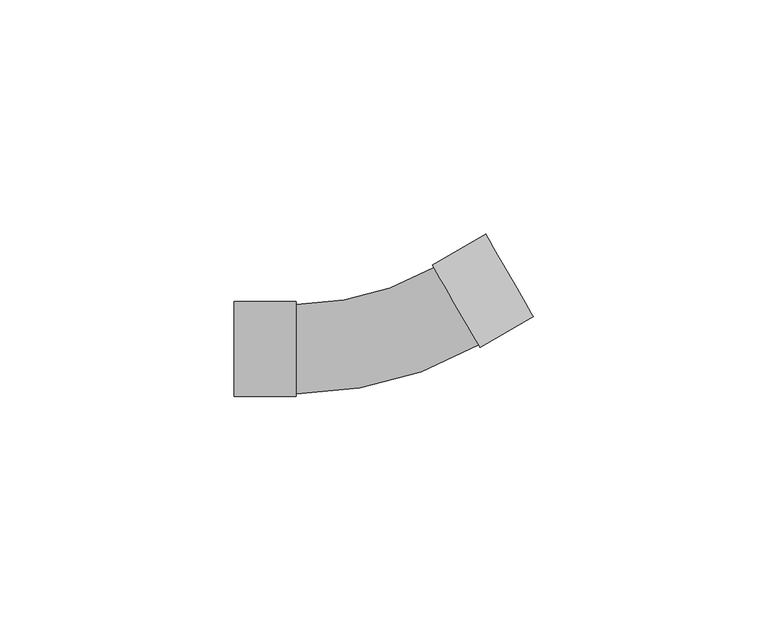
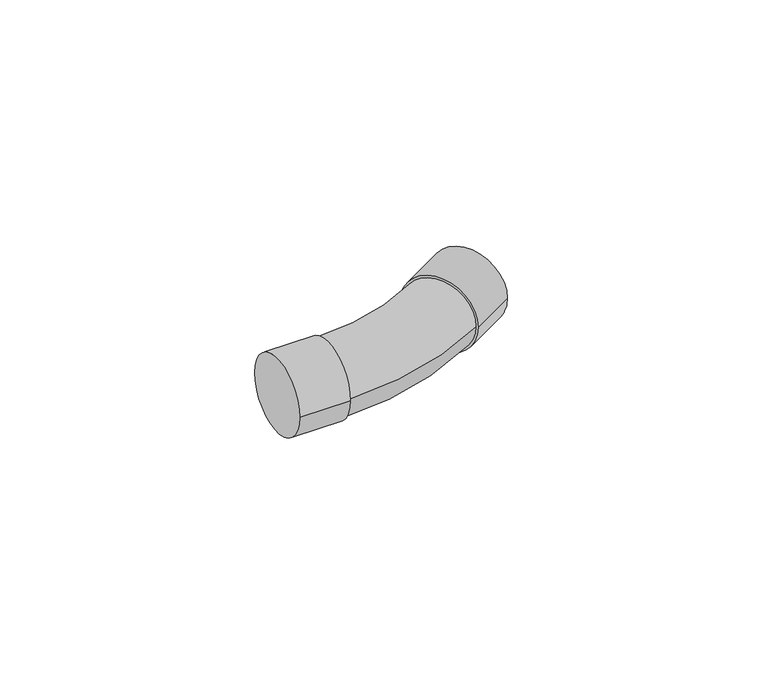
"""IFC4 building model written with IfcOpenShell, lengths in millimetres: pipe fitting geometry, Cotovelo - Soldado - CU : Padrão."""

import ifcopenshell
import ifcopenshell.guid

model = None  # the IFC model being written
_history = None  # IfcOwnerHistory: only IFC2X3 demands one
_inside = {}  # id of a spatial element -> (the spatial element, [elements in it])
_under = {}  # id of a project, library or spatial element -> (it, [spatial elements below it])
_declared = {}  # id of a project -> (the project, [libraries it declares])
_typed = {}  # id of a type object -> (the type object, [elements of that type])
_made_of = {}  # id of a material, layer set ... -> (it, [elements and type objects made of it])


def new_model(schema):
    """Start an empty IFC model of exactly this schema.

    Asked for "IFC4X3", IfcOpenShell would pick the latest addendum, in which some entities
    have other attributes; the version numbers below select the first issue.
    IFC2X3 requires an IfcOwnerHistory on every rooted entity: one is made here for all.
    """
    global model, _history
    if schema == "IFC4X3":
        model = ifcopenshell.file(schema_version=(4, 3, 0, 0))
    else:
        model = ifcopenshell.file(schema=schema)
    _inside.clear()
    _under.clear()
    _declared.clear()
    _typed.clear()
    _made_of.clear()
    _history = None
    if model.schema == "IFC2X3":
        org = make("IfcOrganization", Name="unknown")
        user = make(
            "IfcPersonAndOrganization",
            ThePerson=make("IfcPerson", FamilyName="unknown"),
            TheOrganization=org,
        )
        app = make(
            "IfcApplication",
            ApplicationDeveloper=org,
            Version="unknown",
            ApplicationFullName="unknown",
            ApplicationIdentifier="unknown",
        )
        _history = make(
            "IfcOwnerHistory",
            OwningUser=user,
            OwningApplication=app,
            ChangeAction="ADDED",
            CreationDate=0,
        )
    return model


def make(cls, **values):
    """One entity of the class cls with the attributes given. An attribute that is None is left unset."""
    return model.create_entity(
        cls, **{name: value for name, value in values.items() if value is not None}
    )


def rooted(cls, **values):
    """An entity with a GlobalId (a new one), such as an element, a storey or a relation."""
    return make(cls, GlobalId=ifcopenshell.guid.new(), OwnerHistory=_history, **values)


def si_unit(unit_type, name, prefix=None):
    """IfcSIUnit, for example si_unit("LENGTHUNIT", "METRE", prefix="MILLI")."""
    return make("IfcSIUnit", UnitType=unit_type, Prefix=prefix, Name=name)


def assignment(units):
    """IfcUnitAssignment: the units of a project."""
    return None if units is None else make("IfcUnitAssignment", Units=units)


def point(xyz):
    """IfcCartesianPoint."""
    return None if xyz is None else make("IfcCartesianPoint", Coordinates=xyz)


def direction(xyz):
    """IfcDirection."""
    return None if xyz is None else make("IfcDirection", DirectionRatios=xyz)


def frame(location, z_axis=None, x_axis=None):
    """IfcAxis2Placement3D, a coordinate frame: its origin and axes. An axis left out is left unset."""
    return make(
        "IfcAxis2Placement3D",
        Location=point(location),
        Axis=direction(z_axis),
        RefDirection=direction(x_axis),
    )


def origin():
    """The frame at (0, 0, 0) with its axes left unset."""
    return frame((0.0, 0.0, 0.0))


def place(relative_to, where):
    """IfcLocalPlacement: puts the frame where relative to a parent placement (None: the world)."""
    return make(
        "IfcLocalPlacement", PlacementRelTo=relative_to, RelativePlacement=where
    )


def context(
    kind, dimensions, precision=None, world=None, true_north=None, identifier=None
):
    """IfcGeometricRepresentationContext, for example the 3D "Model" context."""
    return make(
        "IfcGeometricRepresentationContext",
        ContextIdentifier=identifier,
        ContextType=kind,
        CoordinateSpaceDimension=dimensions,
        Precision=precision,
        WorldCoordinateSystem=world,
        TrueNorth=true_north,
    )


def project(units=None, contexts=None):
    """IfcProject with its units and contexts."""
    return rooted(
        "IfcProject",
        Name="project",
        RepresentationContexts=contexts,
        UnitsInContext=assignment(units),
    )


def spatial(cls, under=None, at=None, **own):
    """A site, building, storey or space (cls), placed at a placement, below another one or the project."""
    s = rooted(cls, ObjectPlacement=at, **own)
    if under is not None:
        _under.setdefault(under.id(), (under, []))[1].append(s)
    return s


def circle_curve(where, radius):
    """IfcCircle in the frame where."""
    return make("IfcCircle", Position=where, Radius=radius)


def ellipse_curve(where, semi_axis1, semi_axis2):
    """IfcEllipse in the frame where."""
    return make(
        "IfcEllipse", Position=where, SemiAxis1=semi_axis1, SemiAxis2=semi_axis2
    )


def trimmed(basis, trim1, trim2, sense, master):
    """IfcTrimmedCurve: the piece of a basis curve between two trims."""
    return make(
        "IfcTrimmedCurve",
        BasisCurve=basis,
        Trim1=trim1,
        Trim2=trim2,
        SenseAgreement=sense,
        MasterRepresentation=master,
    )


def shape(context_of_items, identifier, shape_type, items):
    """IfcShapeRepresentation: the items that make up one representation, for example the "Body"."""
    return make(
        "IfcShapeRepresentation",
        ContextOfItems=context_of_items,
        RepresentationIdentifier=identifier,
        RepresentationType=shape_type,
        Items=items,
    )


def source(mapping_origin, context_of_items, identifier, shape_type, items):
    """IfcRepresentationMap: a shape defined once, which mapped items show again and again."""
    return make(
        "IfcRepresentationMap",
        MappingOrigin=mapping_origin,
        MappedRepresentation=shape(context_of_items, identifier, shape_type, items),
    )


def transform(
    local_origin,
    x_axis=None,
    y_axis=None,
    z_axis=None,
    scale=None,
    scale2=None,
    scale3=None,
    uniform=True,
):
    """IfcCartesianTransformationOperator3D, or its non-uniform kind. x_axis, y_axis, z_axis: its Axis1, 2, 3."""
    if uniform:
        return make(
            "IfcCartesianTransformationOperator3D",
            Axis1=direction(x_axis),
            Axis2=direction(y_axis),
            LocalOrigin=point(local_origin),
            Scale=scale,
            Axis3=direction(z_axis),
        )
    return make(
        "IfcCartesianTransformationOperator3DnonUniform",
        Axis1=direction(x_axis),
        Axis2=direction(y_axis),
        LocalOrigin=point(local_origin),
        Scale=scale,
        Axis3=direction(z_axis),
        Scale2=scale2,
        Scale3=scale3,
    )


def mapped(mapping_source, mapping_target):
    """IfcMappedItem: shows the shape of a source again, moved by a transform."""
    return make(
        "IfcMappedItem", MappingSource=mapping_source, MappingTarget=mapping_target
    )


def made_of(thing, what):
    """Note that an element or type object is made of a material, layer set ...; save() writes the relation."""
    if what is not None:
        _made_of.setdefault(what.id(), (what, []))[1].append(thing)
    return thing


def element(
    cls,
    number,
    at=None,
    inside=None,
    cuts=None,
    type_object=None,
    material=None,
    context=None,
    identifier="Body",
    shape_type=None,
    held_by="IfcProductDefinitionShape",
    body=None,
    shapes=None,
    **own,
):
    """One element of the class cls, such as IfcWall. Its Tag is "e" and its number.

    at: its placement. inside: the storey or other place that contains it. cuts: it is an
    opening in that element (IfcRelVoidsElement). A single representation is given by context,
    identifier, shape_type and body (its items); several are given by shapes. held_by: the class
    of the entity that holds the representations. save() writes the other relations.
    """
    e = rooted(cls, Tag="e%d" % number, ObjectPlacement=at, **own)
    if body is not None:
        shapes = [shape(context, identifier, shape_type, body)]
    if shapes is not None:
        e.Representation = make(held_by, Representations=shapes)
    if inside is not None:
        _inside.setdefault(inside.id(), (inside, []))[1].append(e)
    if cuts is not None:
        rooted(
            "IfcRelVoidsElement", RelatingBuildingElement=cuts, RelatedOpeningElement=e
        )
    if type_object is not None:
        _typed.setdefault(type_object.id(), (type_object, []))[1].append(e)
    return made_of(e, material)


def aggregate(whole, parts):
    """IfcRelAggregates: a whole, such as a stair, and the parts it consists of."""
    return rooted("IfcRelAggregates", RelatingObject=whole, RelatedObjects=parts)


def save(model, path):
    """Write the relations noted so far, then the file.

    IfcRelAggregates (storeys below a building ...), IfcRelContainedInSpatialStructure (elements
    in a storey), IfcRelDefinesByType, IfcRelAssociatesMaterial and IfcRelDeclares: one each for
    every whole, place, type object, material and project.
    """
    for whole, parts in _under.values():
        aggregate(whole, parts)
    for where, things in _inside.values():
        rooted(
            "IfcRelContainedInSpatialStructure",
            RelatedElements=things,
            RelatingStructure=where,
        )
    for kind, things in _typed.values():
        rooted("IfcRelDefinesByType", RelatedObjects=things, RelatingType=kind)
    for what, things in _made_of.values():
        rooted("IfcRelAssociatesMaterial", RelatedObjects=things, RelatingMaterial=what)
    for by, libraries in _declared.values():
        rooted("IfcRelDeclares", RelatingContext=by, RelatedDefinitions=libraries)
    model.write(path)


def plane_surface(at):
    """IfcPlane: the flat surface through the origin of the frame at, square to its z axis."""
    return make("IfcPlane", Position=at)


def cylinder_surface(at, radius):
    """IfcCylindricalSurface: all points at the distance radius from the z axis of the frame at."""
    return make("IfcCylindricalSurface", Position=at, Radius=radius)


def revolved_surface(curve, axis_point, axis_direction):
    """IfcSurfaceOfRevolution: the curve turned about the line through axis_point along axis_direction."""
    return make(
        "IfcSurfaceOfRevolution",
        SweptCurve=make("IfcArbitraryOpenProfileDef", ProfileType="CURVE", Curve=curve),
        AxisPosition=make("IfcAxis1Placement", Location=point(axis_point), Axis=direction(axis_direction)),
    )


def advanced_brep(points, edges, surfaces, faces):
    """IfcAdvancedBrep: a solid bounded by faces that lie on surfaces and meet in shared edges.

    An edge is (start, end): straight between two places in points (the first is 0);
    or (start, end, curve); or (start, end, curve, False) where it runs against its curve.
    A face is (place in surfaces, loops), or (place, loops, False) where it looks against
    its surface's normal. A loop lists edges by number (the first is 1), with a minus sign
    where the edge is run from its end to its start. The first loop is the outer one.
    """
    corners = [point(p) for p in points]
    vertices = [make("IfcVertexPoint", VertexGeometry=c) for c in corners]
    made = []
    for start, end, *more in edges:
        made.append(
            make(
                "IfcEdgeCurve",
                EdgeStart=vertices[start],
                EdgeEnd=vertices[end],
                EdgeGeometry=more[0] if more else make("IfcPolyline", Points=[corners[start], corners[end]]),
                SameSense=more[1] if len(more) > 1 else True,
            )
        )
    hull = []
    for where, loops, *sense in faces:
        bounds = []
        for j, loop in enumerate(loops):
            ring = [make("IfcOrientedEdge", EdgeElement=made[abs(k) - 1], Orientation=k > 0) for k in loop]
            bounds.append(
                make(
                    "IfcFaceOuterBound" if j == 0 else "IfcFaceBound",
                    Bound=make("IfcEdgeLoop", EdgeList=ring),
                    Orientation=True,
                )
            )
        hull.append(make("IfcAdvancedFace", Bounds=bounds, FaceSurface=surfaces[where], SameSense=sense[0] if sense else True))
    return make("IfcAdvancedBrep", Outer=make("IfcClosedShell", CfsFaces=hull))


def pipe_fitting_d07a409f(model_context):
    return source(origin(), model_context, "Body", "AdvancedBrep", [
        advanced_brep(
        [(11.090528, 17.401642, 0.0), (-18.3055, 9.525, 0.0), (-18.3055, -9.525, 0.0), (20.615528, 0.903858, 0.0), (-31.459, -10.1155, 0.0), (-31.459, 10.1155, 0.0), (-18.3055, -10.1155, 0.0), (-18.3055, 10.1155, 0.0), (22.1865432, 24.48978, 0.0), (32.3020432, 6.96922, 0.0), (10.795278, 17.91303, 0.0), (20.910778, 0.39247, 0.0)],
        [
            (0, 1, circle_curve(frame((-18.3055, 68.3170561, 0.0), z_axis=(0.0, 0.0, -1.0), x_axis=(0.0, -1.0, 0.0)), 58.7920561)),
            (1, 2, circle_curve(frame((-18.3055, 0.0, 0.0), z_axis=(1.0, 0.0, 0.0), x_axis=(0.0, 1.0, 0.0)), 9.525)),
            (2, 3, circle_curve(frame((-18.3055, 68.3170561, 0.0), z_axis=(0.0, 0.0, 1.0), x_axis=(0.0, -1.0, 0.0)), 77.8420561)),
            (3, 0, circle_curve(frame((15.853028, 9.15275, 0.0), z_axis=(-0.8660254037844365, -0.5000000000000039, 0.0), x_axis=(-0.5000000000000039, 0.8660254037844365, 0.0)), 9.525)),
            (0, 3, circle_curve(frame((15.853028, 9.15275, 0.0), z_axis=(-0.8660254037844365, -0.5000000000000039, 0.0), x_axis=(-0.5000000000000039, 0.8660254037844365, 0.0)), 9.525)),
            (2, 1, circle_curve(frame((-18.3055, 0.0, 0.0), z_axis=(1.0, 0.0, 0.0), x_axis=(0.0, 1.0, 0.0)), 9.525)),
            (4, 5, circle_curve(frame((-31.459, 0.0, 0.0), z_axis=(-1.0, 0.0, 0.0), x_axis=(0.0, 1.0, 0.0)), 10.1155)),
            (5, 4, circle_curve(frame((-31.459, 0.0, 0.0), z_axis=(-1.0, 0.0, 0.0), x_axis=(0.0, 1.0, 0.0)), 10.1155)),
            (6, 7, circle_curve(frame((-18.3055, 0.0, 0.0), z_axis=(1.0, 0.0, 0.0), x_axis=(0.0, 1.0, 0.0)), 10.1155)),
            (7, 6, circle_curve(frame((-18.3055, 0.0, 0.0), z_axis=(1.0, 0.0, 0.0), x_axis=(0.0, 1.0, 0.0)), 10.1155)),
            (4, 6),
            (7, 5),
            (8, 9, circle_curve(frame((27.2442932, 15.7295, 0.0), z_axis=(0.8660254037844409, 0.4999999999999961, 0.0), x_axis=(0.4999999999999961, -0.8660254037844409, 0.0)), 10.1155)),
            (9, 8, circle_curve(frame((27.2442932, 15.7295, 0.0), z_axis=(0.8660254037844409, 0.4999999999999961, 0.0), x_axis=(0.4999999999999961, -0.8660254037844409, 0.0)), 10.1155)),
            (10, 11, circle_curve(frame((15.853028, 9.15275, 0.0), z_axis=(-0.8660254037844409, -0.4999999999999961, 0.0), x_axis=(0.4999999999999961, -0.8660254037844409, 0.0)), 10.1155)),
            (11, 10, circle_curve(frame((15.853028, 9.15275, 0.0), z_axis=(-0.8660254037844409, -0.4999999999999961, 0.0), x_axis=(0.4999999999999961, -0.8660254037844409, 0.0)), 10.1155)),
            (8, 10),
            (11, 9),
        ],
        [
            revolved_surface(trimmed(ellipse_curve(frame((-18.3055, 0.0, 0.0), z_axis=(-1.0, 0.0, 0.0), x_axis=(0.0, 1.0, 0.0)), 9.525, 9.525), [point((-18.3055, -9.525, 0.0))], [point((-18.3055, 9.525, 0.0))], True, "CARTESIAN"), (-18.3055, 68.3170561, 0.0), (0.0, 0.0, 1.0)),
            revolved_surface(trimmed(ellipse_curve(frame((-18.3055, 0.0, 0.0), z_axis=(-1.0, 0.0, 0.0), x_axis=(0.0, 1.0, 0.0)), 9.525, 9.525), [point((-18.3055, 9.525, 0.0))], [point((-18.3055, -9.525, 0.0))], True, "CARTESIAN"), (-18.3055, 68.3170561, 0.0), (0.0, 0.0, 1.0)),
            plane_surface(frame((-31.459, 0.0, 0.0), z_axis=(-1.0, 0.0, 0.0), x_axis=(0.0, 0.0, 1.0))),
            plane_surface(frame((-18.3055, 0.0, 0.0), z_axis=(1.0, 0.0, 0.0), x_axis=(0.0, 0.0, 1.0))),
            cylinder_surface(frame((-31.459, 0.0, 0.0), z_axis=(-1.0, 0.0, 0.0), x_axis=(0.0, 1.0, 0.0)), 10.1155),
            plane_surface(frame((27.2442932, 15.7295, 0.0), z_axis=(0.8660254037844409, 0.4999999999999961, 0.0), x_axis=(0.0, 0.0, 1.0))),
            plane_surface(frame((15.853028, 9.15275, 0.0), z_axis=(-0.8660254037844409, -0.4999999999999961, 0.0), x_axis=(0.0, 0.0, 1.0))),
            cylinder_surface(frame((27.2442932, 15.7295, 0.0), z_axis=(0.8660254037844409, 0.4999999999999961, 0.0), x_axis=(0.4999999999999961, -0.8660254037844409, 0.0)), 10.1155),
        ],
        [
            (0, [[1, 2, 3, 4]]),
            (1, [[-1, 5, -3, 6]]),
            (2, [[7, 8]]),
            (3, [[9, 10], [-2, -6]]),
            (4, [[-7, 11, -10, 12]]),
            (4, [[-8, -12, -9, -11]]),
            (5, [[13, 14]]),
            (6, [[15, 16], [-4, -5]]),
            (7, [[-13, 17, -16, 18]]),
            (7, [[-14, -18, -15, -17]]),
        ],
    ),
    ])


if __name__ == "__main__":
    model = new_model("IFC4")
    model_context = context("Model", 3, world=origin())
    ifc_project = project(units=[si_unit("LENGTHUNIT", "METRE", prefix="MILLI")], contexts=[model_context])
    site = spatial("IfcSite", under=ifc_project)
    building = spatial("IfcBuilding", under=site)
    placement = place(None, origin())
    pipe_fitting_shape = pipe_fitting_d07a409f(model_context)
    element("IfcPipeFitting", 1, ObjectType="Cotovelo - Soldado - CU : Padrão", at=placement, inside=building, context=model_context, shape_type="MappedRepresentation", body=[
        mapped(pipe_fitting_shape, transform((0.0, 0.0, 0.0), x_axis=(1.0, 0.0, 0.0), y_axis=(0.0, 1.0, 0.0), z_axis=(0.0, 0.0, 1.0))),
    ])
    save(model, "model.ifc")
